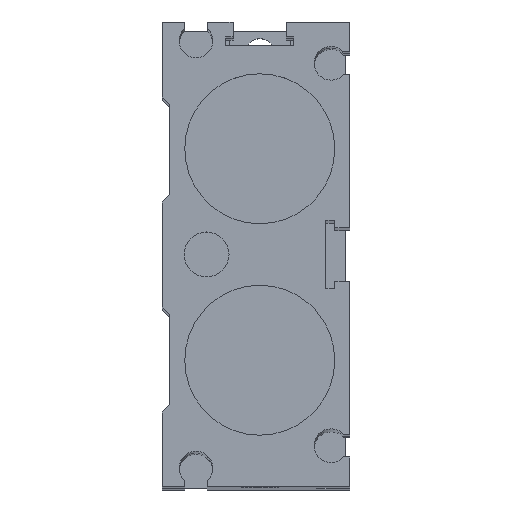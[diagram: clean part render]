
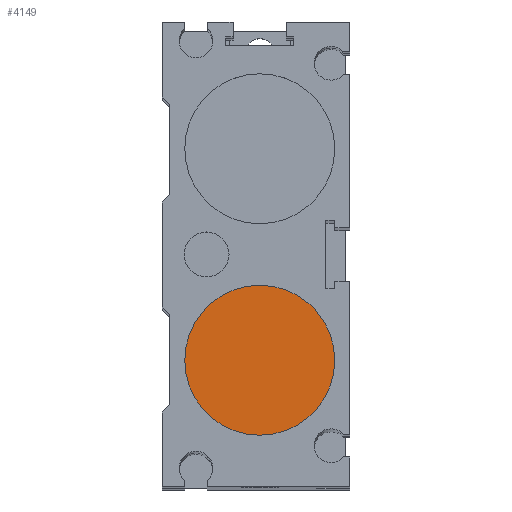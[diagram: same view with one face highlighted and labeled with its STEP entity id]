
A CAD part, top view. The second image highlights one B-rep face of the part: STEP entity #4149.
In plain terms, the highlighted planar face has unit normal (0, 0, 1).
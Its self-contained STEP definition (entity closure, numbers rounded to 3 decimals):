
#4126=CARTESIAN_POINT('',(10.0,-14.1,423.0));
#4127=VERTEX_POINT('',#4126);
#4128=CARTESIAN_POINT('',(0.0,-14.1,423.0));
#4129=DIRECTION('',(0.0,0.0,1.0));
#4130=DIRECTION('',(-1.0,0.0,0.0));
#4131=AXIS2_PLACEMENT_3D('',#4128,#4129,#4130);
#4132=CIRCLE('',#4131,10.0);
#4133=EDGE_CURVE('',#4127,#4127,#4132,.T.);
#4141=CARTESIAN_POINT('',(0.0,-14.1,423.0));
#4142=DIRECTION('',(0.0,0.0,-1.0));
#4143=DIRECTION('',(-1.0,0.0,0.0));
#4144=AXIS2_PLACEMENT_3D('',#4141,#4142,#4143);
#4145=PLANE('',#4144);
#4146=ORIENTED_EDGE('',*,*,#4133,.T.);
#4147=EDGE_LOOP('',(#4146));
#4148=FACE_OUTER_BOUND('',#4147,.T.);
#4149=ADVANCED_FACE('',(#4148),#4145,.F.);
